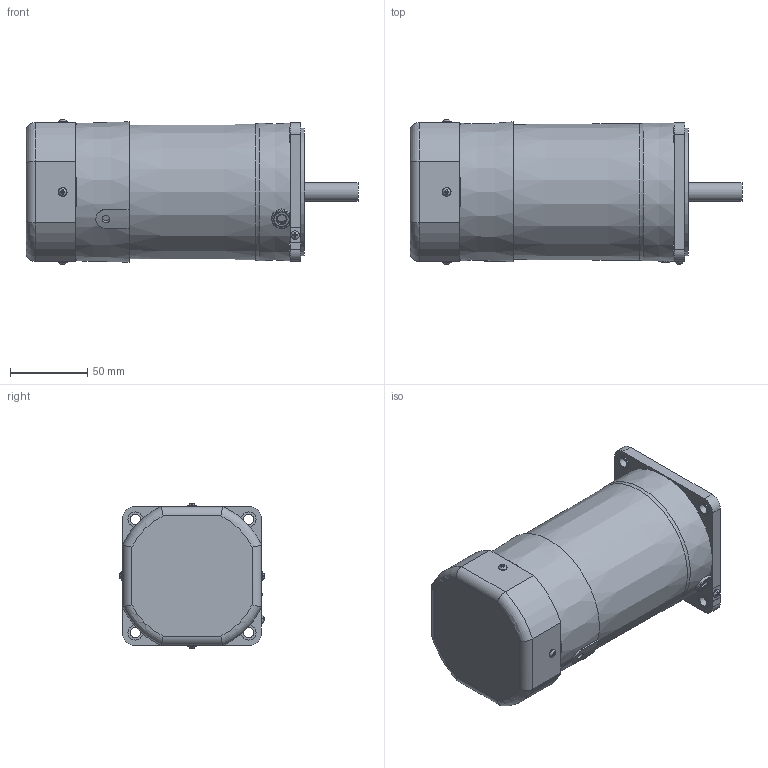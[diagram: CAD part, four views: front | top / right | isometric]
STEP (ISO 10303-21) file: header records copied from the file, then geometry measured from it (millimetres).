
FILE_DESCRIPTION(/* description */ (''),/* implementation_level */ '2;1');
FILE_NAME(/* name */ 'Y:\제품연구개발\4. 개발프로젝트\2. 프로젝트_제품군별\2. STANDARD AC\공유 (이현극)\AC 3D 파일 정리 및 검토\S9I150_-E\S9I150S_-E.stp',/* time_stamp */ '2024-01-03T09:31:33+09:00',/* author */ ('shyi1037'),/* organization */ (''),/* preprocessor_version */ 'ST-DEVELOPER v18.1',/* originating_system */ 'Autodesk Inventor 2022',/* authorisation */ '');
FILE_SCHEMA (('AUTOMOTIVE_DESIGN { 1 0 10303 214 3 1 1 }'));
Length unit declared in the file: millimetre
Products named in the file (1): S9I150S_-E
Bounding box: 215.3 x 93.89 x 93.89 mm (x, y, z)
Volume: 1142188.3 mm3; surface area: 74864.4 mm2
Topology: 1 solids, 6 shells, 242 faces, 610 edges, 401 vertices
Faces by surface type: plane 152, cylinder 61, torus 15, cone 8, bspline 5, sphere 1
Full cylindrical faces by diameter (mm): 3 x4, 3.5 x4, 5 x1, 5.6 x5, 6 x1, 6.5 x4, 9.5 x4, 10 x1, 12 x1, 40 x1, 83 x1, 86 x1
Entity records: 7903 total; most frequent: CARTESIAN_POINT 2053, ORIENTED_EDGE 1220, DIRECTION 1163, EDGE_CURVE 610, AXIS2_PLACEMENT_3D 411, VERTEX_POINT 401, LINE 341, VECTOR 341
